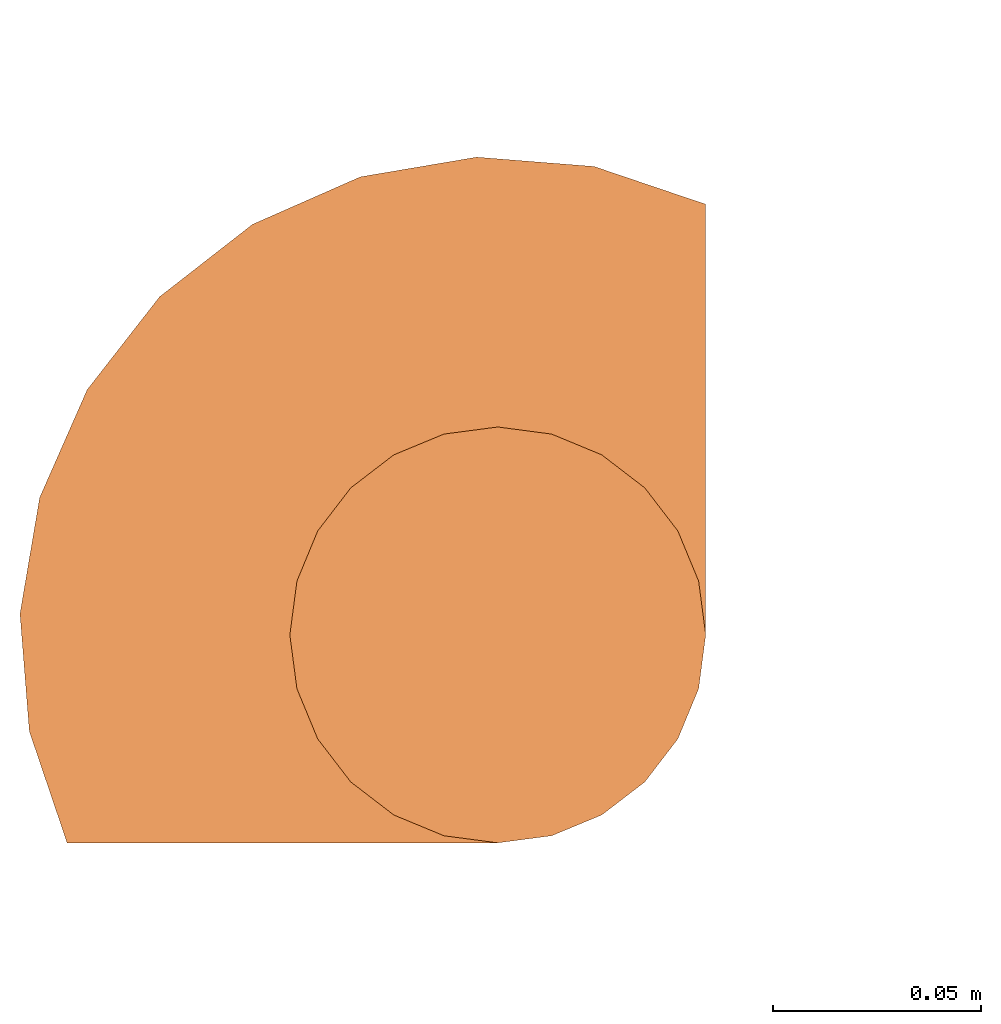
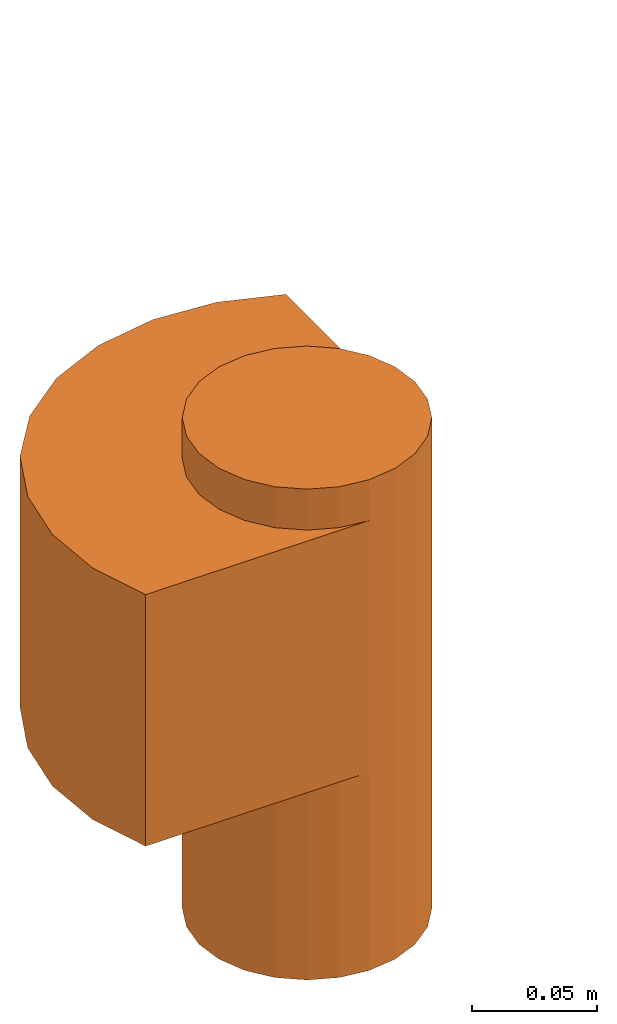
# One storey, part 2 of 3: 1 proxy.
"""IFC2X3 building model written with IfcOpenShell, lengths in centimetres."""

import ifcopenshell
import ifcopenshell.guid

model = None  # the IFC model being written
_history = None  # IfcOwnerHistory: only IFC2X3 demands one
_inside = {}  # id of a spatial element -> (the spatial element, [elements in it])
_under = {}  # id of a project, library or spatial element -> (it, [spatial elements below it])
_declared = {}  # id of a project -> (the project, [libraries it declares])
_typed = {}  # id of a type object -> (the type object, [elements of that type])
_made_of = {}  # id of a material, layer set ... -> (it, [elements and type objects made of it])


def new_model(schema):
    """Start an empty IFC model of exactly this schema.

    Asked for "IFC4X3", IfcOpenShell would pick the latest addendum, in which some entities
    have other attributes; the version numbers below select the first issue.
    IFC2X3 requires an IfcOwnerHistory on every rooted entity: one is made here for all.
    """
    global model, _history
    if schema == "IFC4X3":
        model = ifcopenshell.file(schema_version=(4, 3, 0, 0))
    else:
        model = ifcopenshell.file(schema=schema)
    _inside.clear()
    _under.clear()
    _declared.clear()
    _typed.clear()
    _made_of.clear()
    _history = None
    if model.schema == "IFC2X3":
        org = make("IfcOrganization", Name="unknown")
        user = make(
            "IfcPersonAndOrganization",
            ThePerson=make("IfcPerson", FamilyName="unknown"),
            TheOrganization=org,
        )
        app = make(
            "IfcApplication",
            ApplicationDeveloper=org,
            Version="unknown",
            ApplicationFullName="unknown",
            ApplicationIdentifier="unknown",
        )
        _history = make(
            "IfcOwnerHistory",
            OwningUser=user,
            OwningApplication=app,
            ChangeAction="ADDED",
            CreationDate=0,
        )
    return model


def make(cls, **values):
    """One entity of the class cls with the attributes given. An attribute that is None is left unset."""
    return model.create_entity(
        cls, **{name: value for name, value in values.items() if value is not None}
    )


def entity(cls, *values):
    """Any entity or typed value of the class cls, its attributes in the order of the schema. None: left unset."""
    e = model.create_entity(cls)
    for i, value in enumerate(values):
        if value is not None:
            e[i] = value
    return e


def rooted(cls, **values):
    """An entity with a GlobalId (a new one), such as an element, a storey or a relation."""
    return make(cls, GlobalId=ifcopenshell.guid.new(), OwnerHistory=_history, **values)


def si_unit(unit_type, name, prefix=None):
    """IfcSIUnit, for example si_unit("LENGTHUNIT", "METRE", prefix="MILLI")."""
    return make("IfcSIUnit", UnitType=unit_type, Prefix=prefix, Name=name)


def converted_unit(unit_type, name, factor, base, dimensions=None, offset=None):
    """IfcConversionBasedUnit, such as the inch: factor (a typed value) times the base unit."""
    return make(
        "IfcConversionBasedUnit"
        if offset is None
        else "IfcConversionBasedUnitWithOffset",
        ConversionOffset=offset,
        Dimensions=None
        if dimensions is None
        else entity("IfcDimensionalExponents", *dimensions),
        UnitType=unit_type,
        Name=name,
        ConversionFactor=make(
            "IfcMeasureWithUnit", ValueComponent=factor, UnitComponent=base
        ),
    )


def derived_unit(unit_type, elements):
    """IfcDerivedUnit: a product of units, each with its exponent."""
    return make(
        "IfcDerivedUnit",
        Elements=[
            make("IfcDerivedUnitElement", Unit=unit, Exponent=power)
            for unit, power in elements
        ],
        UnitType=unit_type,
    )


def assignment(units):
    """IfcUnitAssignment: the units of a project."""
    return None if units is None else make("IfcUnitAssignment", Units=units)


def point(xyz):
    """IfcCartesianPoint."""
    return None if xyz is None else make("IfcCartesianPoint", Coordinates=xyz)


def direction(xyz):
    """IfcDirection."""
    return None if xyz is None else make("IfcDirection", DirectionRatios=xyz)


def frame(location, z_axis=None, x_axis=None):
    """IfcAxis2Placement3D, a coordinate frame: its origin and axes. An axis left out is left unset."""
    return make(
        "IfcAxis2Placement3D",
        Location=point(location),
        Axis=direction(z_axis),
        RefDirection=direction(x_axis),
    )


def origin():
    """The frame at (0, 0, 0) with its axes left unset."""
    return frame((0.0, 0.0, 0.0))


def place(relative_to, where):
    """IfcLocalPlacement: puts the frame where relative to a parent placement (None: the world)."""
    return make(
        "IfcLocalPlacement", PlacementRelTo=relative_to, RelativePlacement=where
    )


def context(
    kind, dimensions, precision=None, world=None, true_north=None, identifier=None
):
    """IfcGeometricRepresentationContext, for example the 3D "Model" context."""
    return make(
        "IfcGeometricRepresentationContext",
        ContextIdentifier=identifier,
        ContextType=kind,
        CoordinateSpaceDimension=dimensions,
        Precision=precision,
        WorldCoordinateSystem=world,
        TrueNorth=true_north,
    )


def subcontext(parent, identifier, kind, view, scale=None):
    """IfcGeometricRepresentationSubContext, for example "Body" below "Model"."""
    return make(
        "IfcGeometricRepresentationSubContext",
        ContextIdentifier=identifier,
        ContextType=kind,
        ParentContext=parent,
        TargetScale=scale,
        TargetView=view,
    )


def project(units=None, contexts=None):
    """IfcProject with its units and contexts."""
    return rooted(
        "IfcProject",
        Name="project",
        RepresentationContexts=contexts,
        UnitsInContext=assignment(units),
    )


def spatial(cls, under=None, at=None, **own):
    """A site, building, storey or space (cls), placed at a placement, below another one or the project."""
    s = rooted(cls, ObjectPlacement=at, **own)
    if under is not None:
        _under.setdefault(under.id(), (under, []))[1].append(s)
    return s


def faces_of(points, faces, orient=None, outer=None):
    """IfcFace entities. A face is a list of loops; a loop is a list of indices into points, from 0.

    orient and outer hold one flag for each loop. By default every Orientation is true, the
    first loop of a face is its IfcFaceOuterBound and the others are IfcFaceBound.
    """
    made = []
    for i, loops in enumerate(faces):
        bounds = []
        for j, loop in enumerate(loops):
            is_outer = j == 0 if outer is None else outer[i][j]
            bounds.append(
                make(
                    "IfcFaceOuterBound" if is_outer else "IfcFaceBound",
                    Bound=make("IfcPolyLoop", Polygon=[points[k] for k in loop]),
                    Orientation=True if orient is None else orient[i][j],
                )
            )
        made.append(make("IfcFace", Bounds=bounds))
    return made


def faceted_brep(points, faces, orient=None, outer=None, voids=None):
    """IfcFacetedBrep: a solid bounded by flat faces; with voids (closed shells), ...WithVoids."""
    shared = [point(p) for p in points]
    hull = make("IfcClosedShell", CfsFaces=faces_of(shared, faces, orient, outer))
    if voids is None:
        return make("IfcFacetedBrep", Outer=hull)
    return make(
        "IfcFacetedBrepWithVoids",
        Outer=hull,
        Voids=[
            make(cls, CfsFaces=faces_of(shared, fs, o, b)) for cls, fs, o, b in voids
        ],
    )


def shape(context_of_items, identifier, shape_type, items):
    """IfcShapeRepresentation: the items that make up one representation, for example the "Body"."""
    return make(
        "IfcShapeRepresentation",
        ContextOfItems=context_of_items,
        RepresentationIdentifier=identifier,
        RepresentationType=shape_type,
        Items=items,
    )


def source(mapping_origin, context_of_items, identifier, shape_type, items):
    """IfcRepresentationMap: a shape defined once, which mapped items show again and again."""
    return make(
        "IfcRepresentationMap",
        MappingOrigin=mapping_origin,
        MappedRepresentation=shape(context_of_items, identifier, shape_type, items),
    )


def transform(
    local_origin,
    x_axis=None,
    y_axis=None,
    z_axis=None,
    scale=None,
    scale2=None,
    scale3=None,
    uniform=True,
):
    """IfcCartesianTransformationOperator3D, or its non-uniform kind. x_axis, y_axis, z_axis: its Axis1, 2, 3."""
    if uniform:
        return make(
            "IfcCartesianTransformationOperator3D",
            Axis1=direction(x_axis),
            Axis2=direction(y_axis),
            LocalOrigin=point(local_origin),
            Scale=scale,
            Axis3=direction(z_axis),
        )
    return make(
        "IfcCartesianTransformationOperator3DnonUniform",
        Axis1=direction(x_axis),
        Axis2=direction(y_axis),
        LocalOrigin=point(local_origin),
        Scale=scale,
        Axis3=direction(z_axis),
        Scale2=scale2,
        Scale3=scale3,
    )


def mapped(mapping_source, mapping_target):
    """IfcMappedItem: shows the shape of a source again, moved by a transform."""
    return make(
        "IfcMappedItem", MappingSource=mapping_source, MappingTarget=mapping_target
    )


def material(Name=None, Category=None):
    """IfcMaterial."""
    return make("IfcMaterial", Name=Name, Category=Category)


def made_of(thing, what):
    """Note that an element or type object is made of a material, layer set ...; save() writes the relation."""
    if what is not None:
        _made_of.setdefault(what.id(), (what, []))[1].append(thing)
    return thing


def type_object(cls, material=None, **own):
    """A type object (cls), such as IfcWallType, which elements share."""
    return made_of(rooted(cls, **own), material)


def type_shapes(of_type, sources):
    """Give a type object the sources (RepresentationMaps) that its elements show as mapped items."""
    of_type.RepresentationMaps = sources


def element(
    cls,
    number,
    at=None,
    inside=None,
    cuts=None,
    type_object=None,
    material=None,
    context=None,
    identifier="Body",
    shape_type=None,
    held_by="IfcProductDefinitionShape",
    body=None,
    shapes=None,
    **own,
):
    """One element of the class cls, such as IfcWall. Its Tag is "e" and its number.

    at: its placement. inside: the storey or other place that contains it. cuts: it is an
    opening in that element (IfcRelVoidsElement). A single representation is given by context,
    identifier, shape_type and body (its items); several are given by shapes. held_by: the class
    of the entity that holds the representations. save() writes the other relations.
    """
    e = rooted(cls, Tag="e%d" % number, ObjectPlacement=at, **own)
    if body is not None:
        shapes = [shape(context, identifier, shape_type, body)]
    if shapes is not None:
        e.Representation = make(held_by, Representations=shapes)
    if inside is not None:
        _inside.setdefault(inside.id(), (inside, []))[1].append(e)
    if cuts is not None:
        rooted(
            "IfcRelVoidsElement", RelatingBuildingElement=cuts, RelatedOpeningElement=e
        )
    if type_object is not None:
        _typed.setdefault(type_object.id(), (type_object, []))[1].append(e)
    return made_of(e, material)


def aggregate(whole, parts):
    """IfcRelAggregates: a whole, such as a stair, and the parts it consists of."""
    return rooted("IfcRelAggregates", RelatingObject=whole, RelatedObjects=parts)


def save(model, path):
    """Write the relations noted so far, then the file.

    IfcRelAggregates (storeys below a building ...), IfcRelContainedInSpatialStructure (elements
    in a storey), IfcRelDefinesByType, IfcRelAssociatesMaterial and IfcRelDeclares: one each for
    every whole, place, type object, material and project.
    """
    for whole, parts in _under.values():
        aggregate(whole, parts)
    for where, things in _inside.values():
        rooted(
            "IfcRelContainedInSpatialStructure",
            RelatedElements=things,
            RelatingStructure=where,
        )
    for kind, things in _typed.values():
        rooted("IfcRelDefinesByType", RelatedObjects=things, RelatingType=kind)
    for what, things in _made_of.values():
        rooted("IfcRelAssociatesMaterial", RelatedObjects=things, RelatingMaterial=what)
    for by, libraries in _declared.values():
        rooted("IfcRelDeclares", RelatingContext=by, RelatedDefinitions=libraries)
    model.write(path)


model = new_model("IFC2X3")

# Units and contexts
model_context = context("Model", 3, precision=0.001, world=origin(), true_north=direction((6.12303176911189e-17, 1.0)))
body_context = subcontext(model_context, "Body", "Model", "MODEL_VIEW")
ifc_project = project(units=[si_unit("LENGTHUNIT", "METRE", prefix="CENTI"), si_unit("AREAUNIT", "SQUARE_METRE"), si_unit("VOLUMEUNIT", "CUBIC_METRE"), converted_unit("PLANEANGLEUNIT", "DEGREE", entity("IfcRatioMeasure", 0.0174532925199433), si_unit("PLANEANGLEUNIT", "RADIAN"), dimensions=[0, 0, 0, 0, 0, 0, 0]), si_unit("MASSUNIT", "GRAM", prefix="KILO"), derived_unit("MASSDENSITYUNIT", [(si_unit("MASSUNIT", "GRAM", prefix="KILO"), 1), (si_unit("LENGTHUNIT", "METRE"), -3)]), si_unit("TIMEUNIT", "SECOND"), si_unit("FREQUENCYUNIT", "HERTZ"), si_unit("THERMODYNAMICTEMPERATUREUNIT", "DEGREE_CELSIUS"), derived_unit("THERMALTRANSMITTANCEUNIT", [(si_unit("MASSUNIT", "GRAM", prefix="KILO"), 1), (si_unit("THERMODYNAMICTEMPERATUREUNIT", "KELVIN"), -1), (si_unit("TIMEUNIT", "SECOND"), -3)]), derived_unit("VOLUMETRICFLOWRATEUNIT", [(si_unit("LENGTHUNIT", "METRE"), 3), (si_unit("TIMEUNIT", "SECOND"), -1)]), si_unit("ELECTRICCURRENTUNIT", "AMPERE"), si_unit("ELECTRICVOLTAGEUNIT", "VOLT"), si_unit("POWERUNIT", "WATT"), si_unit("FORCEUNIT", "NEWTON"), si_unit("ILLUMINANCEUNIT", "LUX"), si_unit("LUMINOUSFLUXUNIT", "LUMEN"), si_unit("LUMINOUSINTENSITYUNIT", "CANDELA"), derived_unit("USERDEFINED", [(si_unit("MASSUNIT", "GRAM", prefix="KILO"), -1), (si_unit("LENGTHUNIT", "METRE"), -2), (si_unit("TIMEUNIT", "SECOND"), 3), (si_unit("LUMINOUSFLUXUNIT", "LUMEN"), 1)]), derived_unit("LINEARVELOCITYUNIT", [(si_unit("LENGTHUNIT", "METRE"), 1), (si_unit("TIMEUNIT", "SECOND"), -1)]), si_unit("PRESSUREUNIT", "PASCAL"), derived_unit("USERDEFINED", [(si_unit("LENGTHUNIT", "METRE"), -2), (si_unit("MASSUNIT", "GRAM", prefix="KILO"), 1), (si_unit("TIMEUNIT", "SECOND"), -2)])], contexts=[model_context])

# Site, building, storey
site_placement = place(None, origin())
site = spatial("IfcSite", under=ifc_project, at=site_placement, Name="Default", CompositionType="ELEMENT")
building_placement = place(site_placement, origin())
building = spatial("IfcBuilding", under=site, at=building_placement, Name="CAGE 03", CompositionType="ELEMENT")
storey_placement = place(building_placement, frame((0.0, 0.0, 675.0)))
storey = spatial("IfcBuildingStorey", under=building, at=storey_placement, Name="Ac R+2", CompositionType="ELEMENT", Elevation=675.0)

# Proxy
ifc_material = material(Name="BBGO_Résa")
building_element_proxy_type = type_object("IfcBuildingElementProxyType", Name="Siphon de balcon", PredefinedType="NOTDEFINED", material=ifc_material)
shared_shape = source(origin(), body_context, "Body", "Brep", [
    faceted_brep([(10.3541591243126, 16.4778834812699, 9.69999999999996), (10.3541591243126, 16.4778834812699, 0.0), (9.14825434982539, 15.9783813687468, 0.0), (9.14825434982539, 15.9783813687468, 9.69999999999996), (10.3541591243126, 16.4778834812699, 22.0), (9.14825434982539, 15.9783813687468, 22.0), (9.14825434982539, 15.9783813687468, 24.0), (10.3541591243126, 16.4778834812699, 24.0), (8.11272044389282, 15.1837882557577, 0.0), (8.11272044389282, 15.1837882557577, 9.69999999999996), (8.11272044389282, 15.1837882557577, 22.0), (8.11272044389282, 15.1837882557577, 24.0), (7.31812733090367, 14.1482543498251, 9.69999999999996), (7.31812733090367, 14.1482543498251, 0.0), (6.81862521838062, 12.9423495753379, 0.0), (6.81862521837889, 12.942349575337, 9.69999999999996), (7.31812733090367, 14.1482543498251, 22.0), (6.81862521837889, 12.942349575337, 22.0), (6.81862521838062, 12.9423495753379, 24.0), (7.31812733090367, 14.1482543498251, 24.0), (6.64825434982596, 11.6482543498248, 0.0), (6.64825434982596, 11.6482543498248, 9.69999999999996), (6.64825434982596, 11.6482543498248, 24.0), (6.64825434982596, 11.6482543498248, 22.0), (11.6482543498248, 16.6482543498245, 9.69999999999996), (11.6482543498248, 16.6482543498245, 0.0), (11.6482543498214, 16.6482543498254, 22.0), (11.6482543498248, 16.6482543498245, 24.0), (6.81862521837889, 10.3541591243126, 9.69999999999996), (6.81862521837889, 10.3541591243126, 0.0), (7.31812733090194, 9.14825434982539, 0.0), (7.31812733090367, 9.14825434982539, 9.69999999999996), (6.81862521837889, 10.3541591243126, 22.0), (7.31812733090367, 9.14825434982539, 22.0), (7.31812733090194, 9.14825434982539, 24.0), (6.81862521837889, 10.3541591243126, 24.0), (8.11272044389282, 8.11272044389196, 0.0), (8.11272044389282, 8.11272044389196, 9.69999999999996), (8.11272044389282, 8.11272044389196, 22.0), (8.11272044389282, 8.11272044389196, 24.0), (9.14825434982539, 7.31812733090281, 9.69999999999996), (9.14825434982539, 7.31812733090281, 0.0), (10.3541591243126, 6.81862521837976, 0.0), (10.3541591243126, 6.81862521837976, 9.69999999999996), (9.14825434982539, 7.31812733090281, 22.0), (10.3541591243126, 6.81862521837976, 22.0), (10.3541591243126, 6.81862521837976, 24.0), (9.14825434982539, 7.31812733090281, 24.0), (11.6482543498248, 6.64825434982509, 0.0), (11.6482543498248, 6.64825434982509, 9.69999999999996), (11.6482543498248, 6.64825434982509, 22.0), (11.6482543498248, 6.64825434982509, 24.0), (16.4778834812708, 10.3541591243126, 22.0), (15.978381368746, 9.14825434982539, 22.0), (15.1837882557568, 8.11272044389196, 22.0), (14.1482543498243, 7.31812733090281, 22.0), (12.942349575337, 6.81862521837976, 22.0), (1.29209676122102, 16.6482543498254, 22.0), (0.383832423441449, 13.964026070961, 22.0), (0.15952722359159, 11.1391875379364, 22.0), (0.632800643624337, 8.34525879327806, 22.0), (1.77491621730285, 5.75188308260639, 22.0), (3.51652636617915, 3.51652636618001, 22.0), (5.75188308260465, 1.77491621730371, 22.0), (8.34525879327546, 0.632800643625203, 22.0), (11.1391875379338, 0.159527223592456, 22.0), (13.9640260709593, 0.383832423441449, 22.0), (16.6482543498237, 1.29209676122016, 22.0), (16.6482543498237, 11.6482543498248, 22.0), (12.942349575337, 6.81862521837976, 9.69999999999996), (14.1482543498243, 7.31812733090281, 9.69999999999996), (15.1837882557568, 8.11272044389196, 9.69999999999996), (15.978381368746, 9.14825434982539, 9.69999999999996), (16.4778834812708, 10.3541591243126, 9.69999999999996), (16.6482543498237, 11.6482543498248, 9.69999999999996), (16.6482543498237, 1.29209676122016, 9.69999999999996), (13.9640260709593, 0.383832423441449, 9.69999999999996), (11.1391875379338, 0.159527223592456, 9.69999999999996), (8.34525879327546, 0.632800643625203, 9.69999999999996), (5.75188308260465, 1.77491621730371, 9.69999999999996), (3.51652636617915, 3.51652636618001, 9.69999999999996), (1.77491621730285, 5.75188308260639, 9.69999999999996), (0.632800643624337, 8.34525879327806, 9.69999999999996), (0.15952722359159, 11.1391875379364, 9.69999999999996), (0.383832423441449, 13.964026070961, 9.69999999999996), (1.29209676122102, 16.6482543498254, 9.69999999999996), (12.942349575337, 6.81862521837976, 24.0), (14.1482543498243, 7.31812733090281, 24.0), (15.1837882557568, 8.11272044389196, 24.0), (15.978381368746, 9.14825434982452, 24.0), (16.477883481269, 10.3541591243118, 24.0), (16.6482543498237, 11.6482543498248, 24.0), (16.4778834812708, 12.942349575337, 24.0), (15.9783813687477, 14.1482543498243, 24.0), (15.1837882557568, 15.1837882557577, 24.0), (14.1482543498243, 15.9783813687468, 24.0), (12.942349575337, 16.4778834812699, 24.0), (14.1482543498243, 7.31812733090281, 0.0), (12.942349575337, 6.81862521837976, 0.0), (12.942349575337, 16.4778834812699, 0.0), (14.1482543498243, 15.9783813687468, 0.0), (15.1837882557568, 15.1837882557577, 0.0), (15.9783813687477, 14.1482543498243, 0.0), (16.4778834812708, 12.942349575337, 0.0), (16.6482543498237, 11.6482543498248, 0.0), (16.477883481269, 10.3541591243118, 0.0), (15.978381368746, 9.14825434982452, 0.0), (15.1837882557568, 8.11272044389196, 0.0)], [[[0, 1, 2, 3]], [[4, 5, 6, 7]], [[8, 9, 3, 2]], [[5, 10, 11, 6]], [[12, 13, 14, 15]], [[16, 17, 18, 19]], [[8, 13, 12, 9]], [[10, 16, 19, 11]], [[15, 14, 20, 21]], [[22, 18, 17, 23]], [[1, 0, 24, 25]], [[26, 4, 7, 27]], [[28, 29, 30, 31]], [[32, 33, 34, 35]], [[36, 37, 31, 30]], [[33, 38, 39, 34]], [[40, 41, 42, 43]], [[44, 45, 46, 47]], [[36, 41, 40, 37]], [[38, 44, 47, 39]], [[43, 42, 48, 49]], [[45, 50, 51, 46]], [[29, 28, 21, 20]], [[32, 35, 22, 23]], [[52, 53, 54, 55, 56, 50, 45, 44, 38, 33, 32, 23, 17, 16, 10, 5, 4, 26, 57, 58, 59, 60, 61, 62, 63, 64, 65, 66, 67, 68]], [[21, 28, 31, 37, 40, 43, 49, 69, 70, 71, 72, 73, 74, 75, 76, 77, 78, 79, 80, 81, 82, 83, 84, 85, 24, 0, 3, 9, 12, 15]], [[57, 26, 24, 85]], [[58, 84, 83, 59]], [[60, 82, 81, 61]], [[83, 82, 60, 59]], [[61, 81, 80, 62]], [[84, 58, 57, 85]], [[63, 79, 78, 64]], [[65, 77, 76, 66]], [[78, 77, 65, 64]], [[66, 76, 75, 67]], [[79, 63, 62, 80]], [[68, 67, 75, 74]], [[22, 35, 34, 39, 47, 46, 51, 86, 87, 88, 89, 90, 91, 92, 93, 94, 95, 96, 27, 7, 6, 11, 19, 18]], [[97, 98, 48, 42, 41, 36, 30, 29, 20, 14, 13, 8, 2, 1, 25, 99, 100, 101, 102, 103, 104, 105, 106, 107]], [[48, 98, 69, 49]], [[51, 50, 56, 86]], [[97, 70, 69, 98]], [[56, 55, 87, 86]], [[107, 106, 72, 71]], [[54, 53, 89, 88]], [[107, 71, 70, 97]], [[54, 88, 87, 55]], [[106, 105, 73, 72]], [[89, 53, 52, 90]], [[74, 104, 103, 92, 91, 68]], [[105, 104, 74, 73]], [[52, 68, 91, 90]], [[92, 103, 102, 93]], [[99, 25, 24, 26, 27, 96]], [[94, 101, 100, 95]], [[99, 96, 95, 100]], [[93, 102, 101, 94]]]),
])
type_shapes(building_element_proxy_type, [shared_shape])
proxy_placement = place(storey_placement, frame((3296.21756579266, 4227.30892042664, 183.0), z_axis=(0.0, 0.0, 1.0), x_axis=(0.0, -1.0, 0.0)))
element("IfcBuildingElementProxy", 1, at=proxy_placement, inside=storey, type_object=building_element_proxy_type, material=ifc_material, Name="Siphon de balcon30:Siphon de balcon", ObjectType="Siphon de balcon", context=body_context, shape_type="MappedRepresentation", body=[
    mapped(shared_shape, transform((0.0, 0.0, 0.0), scale=1.0)),
])

save(model, "model.ifc")
